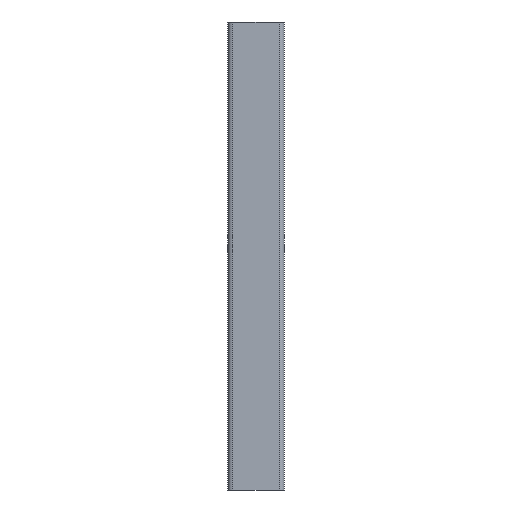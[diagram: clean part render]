
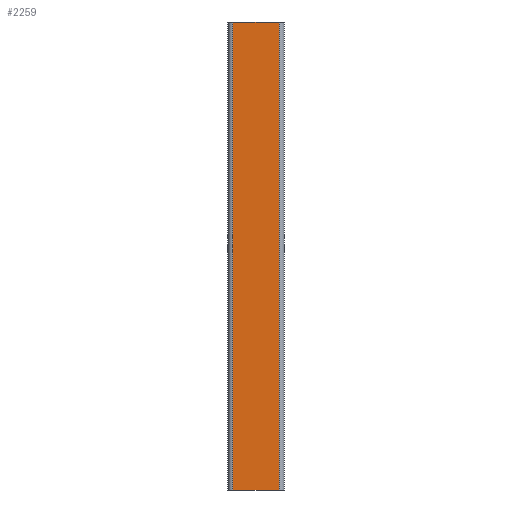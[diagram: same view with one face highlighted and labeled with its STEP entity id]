
A CAD part, front view. The second image highlights one B-rep face of the part: STEP entity #2259.
In plain terms, the highlighted planar face has unit normal (0, -1, 0).
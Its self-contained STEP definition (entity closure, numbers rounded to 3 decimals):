
#234 = LINE ( 'NONE', #1666, #795 ) ;
#242 = EDGE_CURVE ( 'NONE', #661, #1683, #1069, .T. ) ;
#277 = PLANE ( 'NONE',  #1297 ) ;
#286 = FACE_OUTER_BOUND ( 'NONE', #2163, .T. ) ;
#452 = CARTESIAN_POINT ( 'NONE',  ( -25., -30., 500. ) ) ;
#516 = VECTOR ( 'NONE', #1113, 1000. ) ;
#619 = ORIENTED_EDGE ( 'NONE', *, *, #2197, .T. ) ;
#661 = VERTEX_POINT ( 'NONE', #2017 ) ;
#668 = DIRECTION ( 'NONE',  ( 0., 0., -1. ) ) ;
#708 = CARTESIAN_POINT ( 'NONE',  ( 25., -30., 500. ) ) ;
#729 = CARTESIAN_POINT ( 'NONE',  ( -25., -30., 500. ) ) ;
#763 = VECTOR ( 'NONE', #1472, 1000. ) ;
#795 = VECTOR ( 'NONE', #1843, 1000. ) ;
#931 = VERTEX_POINT ( 'NONE', #452 ) ;
#940 = LINE ( 'NONE', #729, #516 ) ;
#982 = CARTESIAN_POINT ( 'NONE',  ( -25., -30., 0. ) ) ;
#1052 = EDGE_CURVE ( 'NONE', #931, #661, #234, .T. ) ;
#1069 = LINE ( 'NONE', #708, #1448 ) ;
#1113 = DIRECTION ( 'NONE',  ( 0., 0., -1. ) ) ;
#1269 = CARTESIAN_POINT ( 'NONE',  ( -25., -30., 0. ) ) ;
#1297 = AXIS2_PLACEMENT_3D ( 'NONE', #2229, #1631, #1822 ) ;
#1396 = ORIENTED_EDGE ( 'NONE', *, *, #242, .F. ) ;
#1448 = VECTOR ( 'NONE', #668, 1000. ) ;
#1472 = DIRECTION ( 'NONE',  ( 1., 0., 0. ) ) ;
#1631 = DIRECTION ( 'NONE',  ( 0., 1., 0. ) ) ;
#1641 = LINE ( 'NONE', #1269, #763 ) ;
#1666 = CARTESIAN_POINT ( 'NONE',  ( -25., -30., 500. ) ) ;
#1683 = VERTEX_POINT ( 'NONE', #1921 ) ;
#1822 = DIRECTION ( 'NONE',  ( 0., 0., 1. ) ) ;
#1843 = DIRECTION ( 'NONE',  ( 1., 0., 0. ) ) ;
#1878 = ORIENTED_EDGE ( 'NONE', *, *, #1052, .F. ) ;
#1921 = CARTESIAN_POINT ( 'NONE',  ( 25., -30., 0. ) ) ;
#2017 = CARTESIAN_POINT ( 'NONE',  ( 25., -30., 500. ) ) ;
#2061 = ORIENTED_EDGE ( 'NONE', *, *, #2290, .T. ) ;
#2105 = VERTEX_POINT ( 'NONE', #982 ) ;
#2163 = EDGE_LOOP ( 'NONE', ( #619, #1396, #1878, #2061 ) ) ;
#2197 = EDGE_CURVE ( 'NONE', #2105, #1683, #1641, .T. ) ;
#2229 = CARTESIAN_POINT ( 'NONE',  ( -25., -30., 500. ) ) ;
#2259 = ADVANCED_FACE ( 'NONE', ( #286 ), #277, .F. ) ;
#2290 = EDGE_CURVE ( 'NONE', #931, #2105, #940, .T. ) ;
